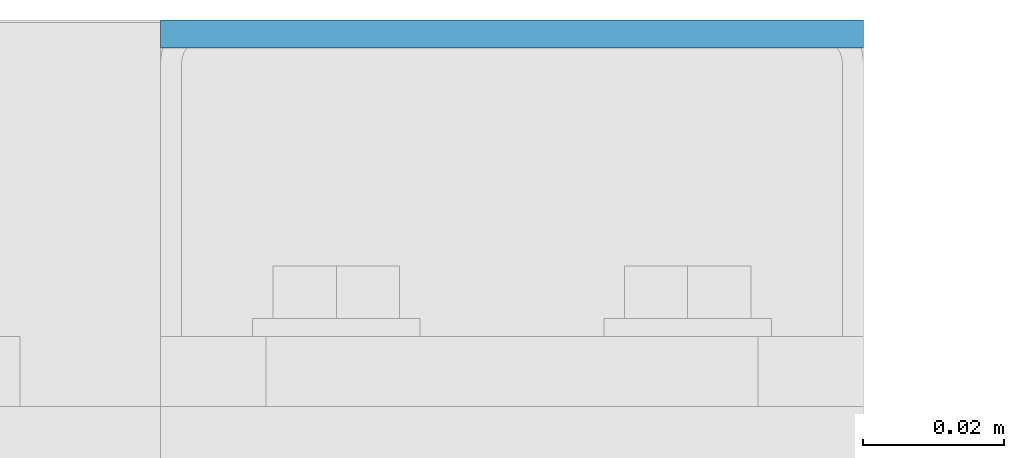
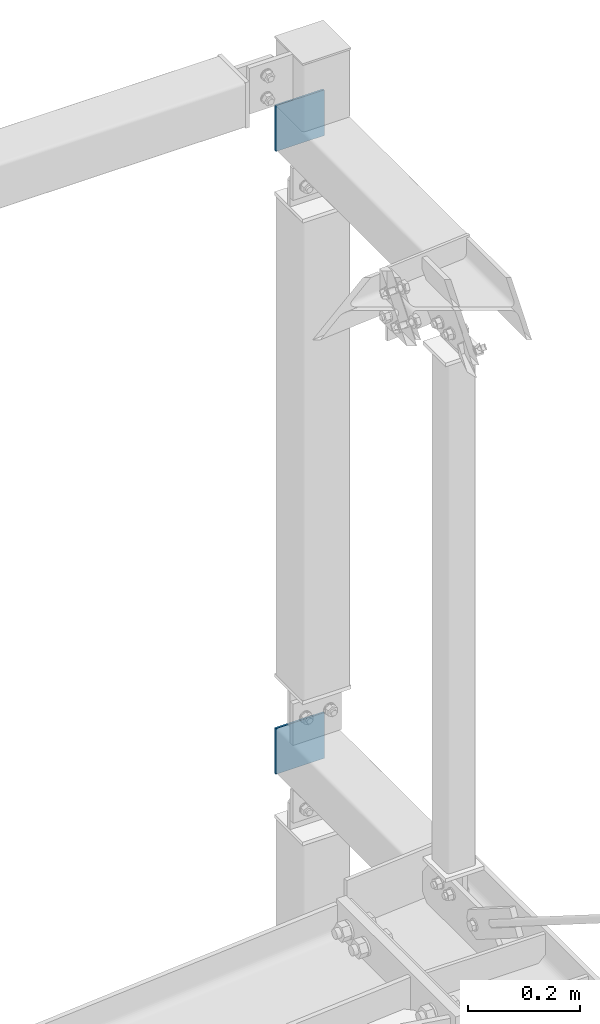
# One storey, part 92 of 271: 2 beams, 2 elements without a shape of their own.
"""IFC2X3 building model written with IfcOpenShell, lengths in millimetres."""

from ifc_helpers import new_model, si_unit, frame, origin_with_axes, origin_2d_with_axis, place, context, subcontext, project, spatial, rectangle, extrude, material, type_object, element, aggregate, save


model = new_model("IFC2X3")

# Units and contexts
model_context = context("Model", 3, precision=1e-05, world=origin_with_axes())
body_context = subcontext(model_context, "Body", "Model", "MODEL_VIEW")
ifc_project = project(units=[si_unit("LENGTHUNIT", "METRE", prefix="MILLI"), si_unit("AREAUNIT", "SQUARE_METRE"), si_unit("VOLUMEUNIT", "CUBIC_METRE"), si_unit("MASSUNIT", "GRAM", prefix="KILO"), si_unit("TIMEUNIT", "SECOND"), si_unit("PLANEANGLEUNIT", "RADIAN"), si_unit("SOLIDANGLEUNIT", "STERADIAN"), si_unit("THERMODYNAMICTEMPERATUREUNIT", "DEGREE_CELSIUS"), si_unit("LUMINOUSINTENSITYUNIT", "LUMEN")], contexts=[model_context])

# Site, building, storey
site_placement = place(None, origin_with_axes())
site = spatial("IfcSite", under=ifc_project, at=site_placement, Name="Undefined", CompositionType="ELEMENT")
building_placement = place(site_placement, origin_with_axes())
building = spatial("IfcBuilding", under=site, at=building_placement, Name="Undefined", CompositionType="ELEMENT")
storey_placement = place(building_placement, origin_with_axes())
storey = spatial("IfcBuildingStorey", under=building, at=storey_placement, Name="Undefined", CompositionType="ELEMENT", Elevation=0.0)

# Assembly, beam
assembly_1_placement = place(storey_placement, origin_with_axes())
assembly_1 = element("IfcElementAssembly", 1, at=assembly_1_placement, inside=storey, AssemblyPlace="NOTDEFINED", PredefinedType="RIGID_FRAME")
ifc_material = material(Name="STEEL/S355JR")
beam_type = type_object("IfcBeamType", Name="BL4*100", PredefinedType="NOTDEFINED")
beam_1_placement = place(assembly_1_placement, frame((12608.3756870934, 4957.32498425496, 20004.3499999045), z_axis=(0.0, 0.0, 1.0), x_axis=(1.0, 0.0, 0.0)))
beam_1 = element("IfcBeam", 2, at=beam_1_placement, type_object=beam_type, material=ifc_material, Name="BLACHA", ObjectType="BL4*100", context=body_context, shape_type="SweptSolid", body=[
    extrude(rectangle(XDim=4.0, YDim=100.0, at=origin_2d_with_axis()), frame((100.0, 0.0, 0.0), z_axis=(-1.0, 0.0, 1.38777878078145e-17), x_axis=(0.0, -1.0, 0.0)), (0.0, 0.0, 1.0), 100.0),
])
aggregate(assembly_1, [beam_1])

assembly_2_placement = place(storey_placement, origin_with_axes())
assembly_2 = element("IfcElementAssembly", 3, at=assembly_2_placement, inside=storey, AssemblyPlace="NOTDEFINED", PredefinedType="RIGID_FRAME")
beam_2_placement = place(assembly_2_placement, frame((12608.3756870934, 4957.32498425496, 18644.3499999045), z_axis=(0.0, 0.0, 1.0), x_axis=(1.0, 0.0, 0.0)))
beam_2 = element("IfcBeam", 4, at=beam_2_placement, type_object=beam_type, material=ifc_material, Name="BLACHA", ObjectType="BL4*100", context=body_context, shape_type="SweptSolid", body=[
    extrude(rectangle(XDim=4.0, YDim=100.0, at=origin_2d_with_axis()), frame((100.0, 0.0, 0.0), z_axis=(-1.0, 0.0, 1.38777878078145e-17), x_axis=(0.0, -1.0, 0.0)), (0.0, 0.0, 1.0), 100.0),
])
aggregate(assembly_2, [beam_2])

save(model, "model.ifc")
